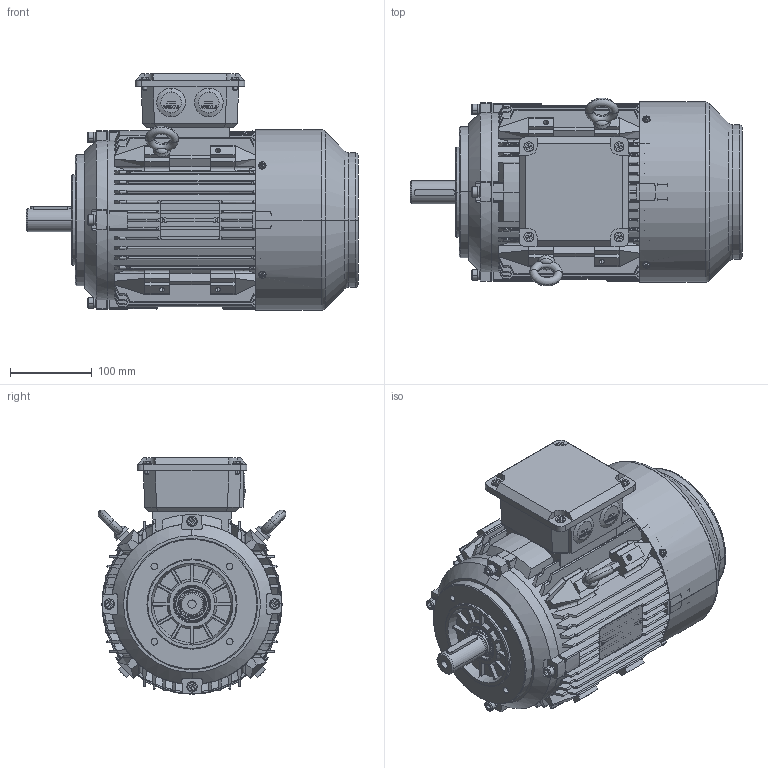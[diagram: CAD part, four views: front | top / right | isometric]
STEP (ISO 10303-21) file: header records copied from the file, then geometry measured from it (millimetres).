
FILE_DESCRIPTION (( 'STEP AP214' ), '1' );
FILE_NAME ('BCT4400.11D214.11.step', '2020-04-23T13:27:54', ( '' ), ( '' ), 'SwSTEP 2.0', 'SolidWorks 2019', '' );
FILE_SCHEMA (( 'AUTOMOTIVE_DESIGN' ));
Length unit declared in the file: millimetre
Products named in the file (1): BCT4400.11D214.11
Bounding box: 405 x 229.16 x 288.5 mm (x, y, z)
Volume: 2875977.3 mm3; surface area: 1164568.9 mm2
Topology: 32 solids, 32 shells, 3680 faces, 10154 edges, 6634 vertices
Faces by surface type: plane 1856, cylinder 1275, cone 301, bspline 148, torus 100
Entity records: 140998 total; most frequent: CARTESIAN_POINT 46859, ORIENTED_EDGE 20260, DIRECTION 18691, EDGE_CURVE 10130, VERTEX_POINT 6634, AXIS2_PLACEMENT_3D 6389, VECTOR 5913, LINE 5913
